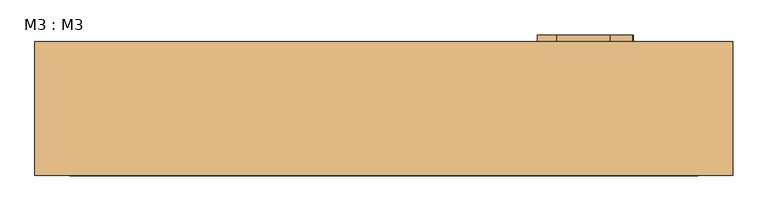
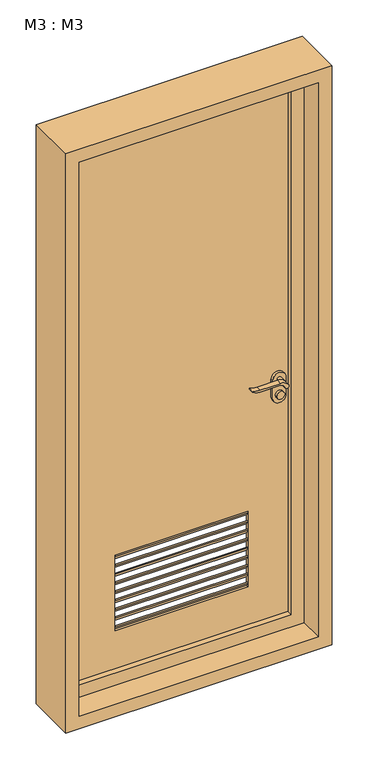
"""IFC4 building model written with IfcOpenShell, lengths in millimetres: door geometry, M3 : M3."""

from ifc_helpers import new_model, si_unit, point, frame, frame_2d, origin, place, context, project, spatial, polyline, circle_curve, trimmed, segment, composite_curve, outline, extrude, source, transform, mapped, element, save


def m3_m3_68d9ec90(model_context):
    return source(origin(), model_context, "Body", "SweptSolid", [
        extrude(outline(polyline([(-4.7131078, 515.037841), (5.2868922, 500.037841), (5.2868922, 494.447671), (-4.7131078, 509.447671), (-4.7131078, 515.037841)])), frame((-250.0, 0.0, 0.0), z_axis=(1.0, 0.0, 0.0), x_axis=(0.0, 1.0, 0.0)), (0.0, 0.0, 1.0), 500.0),
        extrude(outline(polyline([(-4.7131078, 480.1116122), (5.2868922, 465.1116122), (5.2868922, 459.5214423), (-4.7131078, 474.5214423), (-4.7131078, 480.1116122)])), frame((-250.0, 0.0, 0.0), z_axis=(1.0, 0.0, 0.0), x_axis=(0.0, 1.0, 0.0)), (0.0, 0.0, 1.0), 500.0),
        extrude(outline(polyline([(-4.7131078, 445.1853834), (5.2868922, 430.1853834), (5.2868922, 424.5952135), (-4.7131078, 439.5952135), (-4.7131078, 445.1853834)])), frame((-250.0, 0.0, 0.0), z_axis=(1.0, 0.0, 0.0), x_axis=(0.0, 1.0, 0.0)), (0.0, 0.0, 1.0), 500.0),
        extrude(outline(polyline([(-4.7131078, 410.2591547), (5.2868922, 395.2591547), (5.2868922, 389.6689847), (-4.7131078, 404.6689847), (-4.7131078, 410.2591547)])), frame((-250.0, 0.0, 0.0), z_axis=(1.0, 0.0, 0.0), x_axis=(0.0, 1.0, 0.0)), (0.0, 0.0, 1.0), 500.0),
        extrude(outline(polyline([(-4.7131078, 375.3329259), (5.2868922, 360.3329259), (5.2868922, 354.742756), (-4.7131078, 369.742756), (-4.7131078, 375.3329259)])), frame((-250.0, 0.0, 0.0), z_axis=(1.0, 0.0, 0.0), x_axis=(0.0, 1.0, 0.0)), (0.0, 0.0, 1.0), 500.0),
        extrude(outline(polyline([(-4.7131078, 340.4066972), (5.2868922, 325.4066972), (5.2868922, 319.8165272), (-4.7131078, 334.8165272), (-4.7131078, 340.4066972)])), frame((-250.0, 0.0, 0.0), z_axis=(1.0, 0.0, 0.0), x_axis=(0.0, 1.0, 0.0)), (0.0, 0.0, 1.0), 500.0),
        extrude(outline(polyline([(-4.7131078, 305.4804684), (5.2868922, 290.4804684), (5.2868922, 284.8902985), (-4.7131078, 299.8902985), (-4.7131078, 305.4804684)])), frame((-250.0, 0.0, 0.0), z_axis=(1.0, 0.0, 0.0), x_axis=(0.0, 1.0, 0.0)), (0.0, 0.0, 1.0), 500.0),
        extrude(outline(polyline([(-4.7131078, 549.9640697), (5.2868922, 534.9640697), (5.2868922, 529.3738998), (-4.7131078, 544.3738998), (-4.7131078, 549.9640697)])), frame((-250.0, 0.0, 0.0), z_axis=(1.0, 0.0, 0.0), x_axis=(0.0, 1.0, 0.0)), (0.0, 0.0, 1.0), 500.0),
        extrude(outline(polyline([(-4.7131078, 270.5542397), (5.2868922, 255.5542397), (5.2868922, 249.9640697), (-4.7131078, 264.9640697), (-4.7131078, 270.5542397)])), frame((-250.0, 0.0, 0.0), z_axis=(1.0, 0.0, 0.0), x_axis=(0.0, 1.0, 0.0)), (0.0, 0.0, 1.0), 500.0),
        extrude(outline(composite_curve([segment(trimmed(circle_curve(frame_2d((1000.0, 350.0)), 15.0), [point((1000.0, 335.0))], [point((1000.0, 365.0))], False, "CARTESIAN"), True, "CONTINUOUS"), segment(trimmed(circle_curve(frame_2d((1000.0, 350.0)), 15.0), [point((1000.0, 365.0))], [point((1000.0, 335.0))], False, "CARTESIAN"), True, "CONTINUOUS")], self_intersect=False)), frame((0.0, 35.0, 0.0), z_axis=(0.0, 1.0, 0.0), x_axis=(0.0, 0.0, 1.0)), (0.0, 0.0, 1.0), 10.0),
        extrude(outline(composite_curve([segment(trimmed(circle_curve(frame_2d((1000.0, 350.0)), 15.0), [point((1000.0, 335.0))], [point((1000.0, 365.0))], False, "CARTESIAN"), True, "CONTINUOUS"), segment(trimmed(circle_curve(frame_2d((1000.0, 350.0)), 15.0), [point((1000.0, 365.0))], [point((1000.0, 335.0))], False, "CARTESIAN"), True, "CONTINUOUS")], self_intersect=False)), frame((0.0, -45.0, 0.0), z_axis=(0.0, 1.0, 0.0), x_axis=(0.0, 0.0, 1.0)), (0.0, 0.0, 1.0), 10.0),
        extrude(outline(composite_curve([segment(trimmed(circle_curve(frame_2d((1042.7555521, 326.3324871)), 37.2832219), [point((1064.6523287, 356.5081363))], [point((1080.0, 324.6325667))], False, "CARTESIAN"), True, "CONTINUOUS"), segment(polyline([(1080.0, 324.6325667), (1080.0, 248.3564091)]), True, "CONTINUOUS"), segment(trimmed(circle_curve(frame_2d((1163.2850638, 248.4227909)), 83.2850902), [point((1080.0, 248.3564091))], [point((1085.0, 220.0))], True, "CARTESIAN"), True, "CONTINUOUS"), segment(polyline([(1085.0, 220.0), (1082.2135558, 220.0)]), True, "CONTINUOUS"), segment(trimmed(circle_curve(frame_2d((1132.2709207, 251.9396612)), 59.3791355), [point((1082.2135558, 220.0))], [point((1073.0, 248.3564091))], False, "CARTESIAN"), True, "CONTINUOUS"), segment(polyline([(1073.0, 248.3564091), (1073.0, 324.6138099)]), True, "CONTINUOUS"), segment(trimmed(circle_curve(frame_2d((1054.8738613, 324.6138099)), 18.1261387), [point((1073.0, 324.6138099))], [point((1060.0, 342.0))], True, "CARTESIAN"), True, "CONTINUOUS"), segment(trimmed(circle_curve(frame_2d((1060.0, 350.0)), 8.0), [point((1060.0, 342.0))], [point((1064.6523287, 356.5081363))], False, "CARTESIAN"), True, "CONTINUOUS")], self_intersect=False)), frame((0.0, 65.0, 0.0), z_axis=(0.0, 1.0, 0.0), x_axis=(0.0, 0.0, 1.0)), (0.0, 0.0, 1.0), 20.0),
        extrude(outline(composite_curve([segment(trimmed(circle_curve(frame_2d((1060.0, 350.0)), 8.0), [point((1059.9999903, 342.0))], [point((1064.6523287, 356.5081363))], False, "CARTESIAN"), True, "CONTINUOUS"), segment(trimmed(circle_curve(frame_2d((1042.7555521, 326.3324871)), 37.2832219), [point((1064.6523287, 356.5081363))], [point((1080.0, 324.6325667))], False, "CARTESIAN"), True, "CONTINUOUS"), segment(polyline([(1080.0, 324.6325667), (1080.0, 248.3564091)]), True, "CONTINUOUS"), segment(trimmed(circle_curve(frame_2d((1163.2850638, 248.4227909)), 83.2850902), [point((1080.0, 248.3564091))], [point((1085.0, 220.0))], True, "CARTESIAN"), True, "CONTINUOUS"), segment(polyline([(1085.0, 220.0), (1082.2135558, 220.0)]), True, "CONTINUOUS"), segment(trimmed(circle_curve(frame_2d((1132.2709207, 251.9396612)), 59.3791355), [point((1082.2135558, 220.0))], [point((1073.0, 248.3564091))], False, "CARTESIAN"), True, "CONTINUOUS"), segment(polyline([(1073.0, 248.3564091), (1073.0, 324.6138122)]), True, "CONTINUOUS"), segment(trimmed(circle_curve(frame_2d((1054.8738682, 324.6138122)), 18.1261318), [point((1073.0, 324.6138122))], [point((1059.9999903, 342.0))], True, "CARTESIAN"), True, "CONTINUOUS")], self_intersect=False)), frame((0.0, -85.0, 0.0), z_axis=(0.0, 1.0, 0.0), x_axis=(0.0, 0.0, 1.0)), (0.0, 0.0, 1.0), 20.0),
        extrude(outline(composite_curve([segment(trimmed(circle_curve(frame_2d((1060.0, 350.0)), 8.0), [point((1060.0, 342.0))], [point((1060.0, 358.0))], False, "CARTESIAN"), True, "CONTINUOUS"), segment(trimmed(circle_curve(frame_2d((1060.0, 350.0)), 8.0), [point((1060.0, 358.0))], [point((1060.0, 342.0))], False, "CARTESIAN"), True, "CONTINUOUS")], self_intersect=False)), frame((0.0, 35.0, 0.0), z_axis=(0.0, 1.0, 0.0), x_axis=(0.0, 0.0, 1.0)), (0.0, 0.0, 1.0), 30.0),
        extrude(outline(composite_curve([segment(trimmed(circle_curve(frame_2d((1060.0, 350.0)), 8.0), [point((1060.0, 342.0))], [point((1060.0, 358.0))], False, "CARTESIAN"), True, "CONTINUOUS"), segment(trimmed(circle_curve(frame_2d((1060.0, 350.0)), 8.0), [point((1060.0, 358.0))], [point((1060.0, 342.0))], False, "CARTESIAN"), True, "CONTINUOUS")], self_intersect=False)), frame((0.0, -65.0, 0.0), z_axis=(0.0, 1.0, 0.0), x_axis=(0.0, 0.0, 1.0)), (0.0, 0.0, 1.0), 30.0),
        extrude(outline(composite_curve([segment(polyline([(990.0, 375.0), (1060.0, 375.0)]), True, "CONTINUOUS"), segment(trimmed(circle_curve(frame_2d((1060.0, 350.0)), 25.0), [point((1060.0, 375.0))], [point((1060.0, 325.0))], False, "CARTESIAN"), True, "CONTINUOUS"), segment(polyline([(1060.0, 325.0), (990.0, 325.0)]), True, "CONTINUOUS"), segment(trimmed(circle_curve(frame_2d((990.0, 350.0)), 25.0), [point((990.0, 325.0))], [point((990.0, 375.0))], False, "CARTESIAN"), True, "CONTINUOUS")], self_intersect=False)), frame((0.0, 25.0, 0.0), z_axis=(0.0, 1.0, 0.0), x_axis=(0.0, 0.0, 1.0)), (0.0, 0.0, 1.0), 10.0),
        extrude(outline(composite_curve([segment(polyline([(990.0, 375.0), (1060.0, 375.0)]), True, "CONTINUOUS"), segment(trimmed(circle_curve(frame_2d((1060.0, 350.0)), 25.0), [point((1060.0, 375.0))], [point((1060.0, 325.0))], False, "CARTESIAN"), True, "CONTINUOUS"), segment(polyline([(1060.0, 325.0), (990.0, 325.0)]), True, "CONTINUOUS"), segment(trimmed(circle_curve(frame_2d((990.0, 350.0)), 25.0), [point((990.0, 325.0))], [point((990.0, 375.0))], False, "CARTESIAN"), True, "CONTINUOUS")], self_intersect=False)), frame((0.0, -35.0, 0.0), z_axis=(0.0, 1.0, 0.0), x_axis=(0.0, 0.0, 1.0)), (0.0, 0.0, 1.0), 10.0),
        extrude(outline(polyline([(2200.0, 400.0), (2200.0, -400.0), (100.0, -400.0), (100.0, 400.0), (2200.0, 400.0)]), holes=[polyline([(549.9640697, 250.0), (249.9640697, 250.0), (249.9640697, -250.0), (549.9640697, -250.0), (549.9640697, 250.0)])]), frame((0.0, -4.7131078, 0.0), z_axis=(0.0, 1.0, 0.0), x_axis=(0.0, 0.0, 1.0)), (0.0, 0.0, 1.0), 10.0),
        extrude(outline(polyline([(2300.0, 500.0), (2300.0, -500.0), (0.0, -500.0), (0.0, 500.0), (2300.0, 500.0)]), holes=[polyline([(2250.0, 450.0), (50.0, 450.0), (50.0, -450.0), (2250.0, -450.0), (2250.0, 450.0)])]), frame((0.0, -117.0, 0.0), z_axis=(0.0, 1.0, 0.0), x_axis=(0.0, 0.0, 1.0)), (0.0, 0.0, 1.0), 192.0),
        extrude(outline(polyline([(2250.0, 450.0), (2250.0, -450.0), (50.0, -450.0), (50.0, 450.0), (2250.0, 450.0)]), holes=[polyline([(2200.0, 400.0), (100.0, 400.0), (100.0, -400.0), (2200.0, -400.0), (2200.0, 400.0)])]), frame((0.0, -25.0, 0.0), z_axis=(0.0, 1.0, 0.0), x_axis=(0.0, 0.0, 1.0)), (0.0, 0.0, 1.0), 50.0),
    ])


if __name__ == "__main__":
    model = new_model("IFC4")
    model_context = context("Model", 3, world=origin())
    ifc_project = project(units=[si_unit("LENGTHUNIT", "METRE", prefix="MILLI")], contexts=[model_context])
    site = spatial("IfcSite", under=ifc_project)
    building = spatial("IfcBuilding", under=site)
    placement = place(None, origin())
    m3_m3_shape = m3_m3_68d9ec90(model_context)
    element("IfcDoor", 1, ObjectType="M3 : M3", at=placement, inside=building, context=model_context, shape_type="MappedRepresentation", body=[
        mapped(m3_m3_shape, transform((0.0, 0.0, 0.0), x_axis=(1.0, 0.0, 0.0), y_axis=(0.0, 1.0, 0.0), z_axis=(0.0, 0.0, 1.0))),
    ])
    save(model, "model.ifc")
